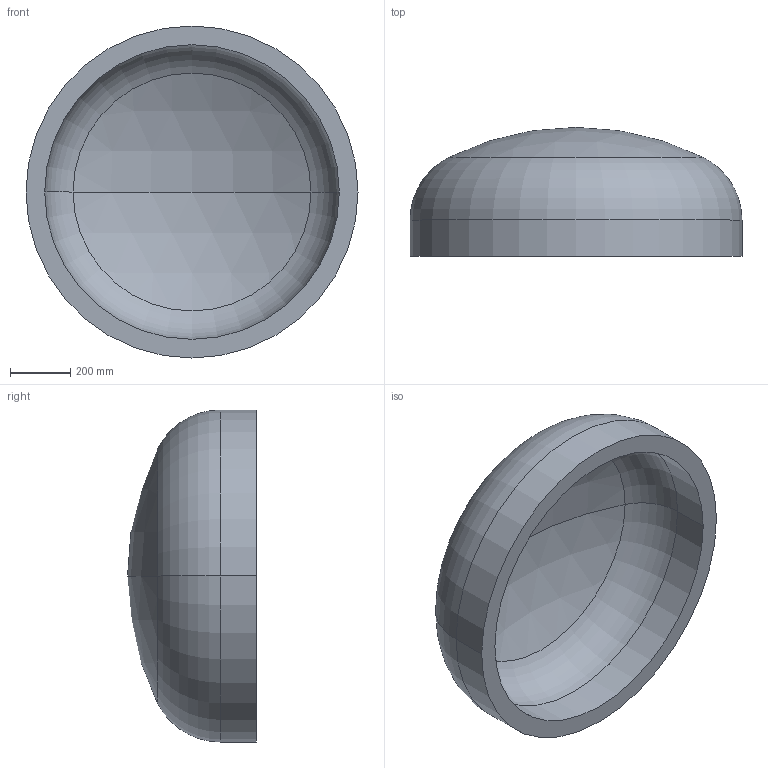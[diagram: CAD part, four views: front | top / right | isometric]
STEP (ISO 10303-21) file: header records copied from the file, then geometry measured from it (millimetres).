
FILE_DESCRIPTION (( 'STEP AP203' ), '1' );
FILE_NAME ('DIN 28013 Korbbogenform_-_Boden DIN 28013 - 1100 x 120 - I - s=62.step', '2016-07-01T09:11:21', ( '' ), ( '' ), 'SwSTEP 2.0', 'SolidWorks 2013', '' );
FILE_SCHEMA (( 'CONFIG_CONTROL_DESIGN' ));
Length unit declared in the file: millimetre
Products named in the file (1): DIN 28013 Korbbogenform_-_Boden DIN 28013 - 1100 x 120 - I - s=62
Bounding box: 1100 x 427.2 x 1100 mm (x, y, z)
Volume: 100247905.3 mm3; surface area: 3444033.9 mm2
Topology: 1 solids, 1 shells, 13 faces, 24 edges, 14 vertices
Faces by surface type: torus 4, cylinder 4, sphere 4, plane 1
Entity records: 407 total; most frequent: DIRECTION 72, CARTESIAN_POINT 52, ORIENTED_EDGE 48, AXIS2_PLACEMENT_3D 34, EDGE_CURVE 24, CIRCLE 20, VERTEX_POINT 14, EDGE_LOOP 14
